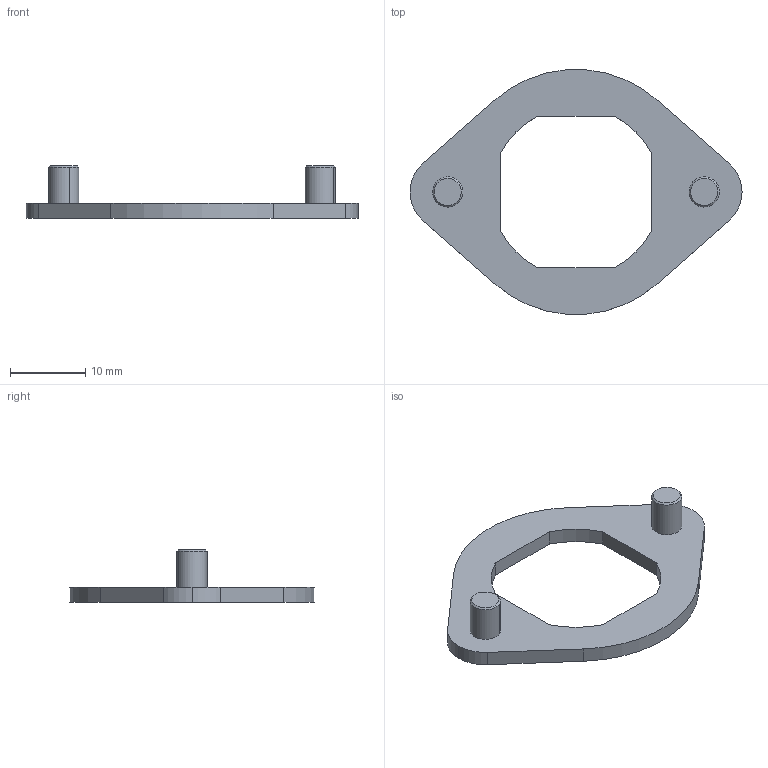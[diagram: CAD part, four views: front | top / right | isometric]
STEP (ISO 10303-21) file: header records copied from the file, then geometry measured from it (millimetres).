
FILE_DESCRIPTION (( 'STEP AP214' ), '1' );
FILE_NAME ('2.907.002.STEP', '2016-09-08T11:57:34', ( '' ), ( '' ), 'SwSTEP 2.0', 'SolidWorks 2015', '' );
FILE_SCHEMA (( 'AUTOMOTIVE_DESIGN' ));
Length unit declared in the file: millimetre
Products named in the file (3): 2.907.002; 2.907.002.02_A-zak; 2.907.002.01_B
Assembly tree (3 placements, depth 2):
  2.907.002
    2.907.002.01_B
    2.907.002.02_A-zak  x2
Bounding box: 44 x 32.4 x 7 mm (x, y, z)
Volume: 1323.2 mm3; surface area: 1786.3 mm2
Topology: 3 solids, 3 shells, 45 faces, 103 edges, 66 vertices
Faces by surface type: cylinder 21, plane 16, cone 8
Entity records: 1143 total; most frequent: DIRECTION 201, CARTESIAN_POINT 177, ORIENTED_EDGE 166, EDGE_CURVE 83, AXIS2_PLACEMENT_3D 78, VERTEX_POINT 54, LINE 45, VECTOR 45
